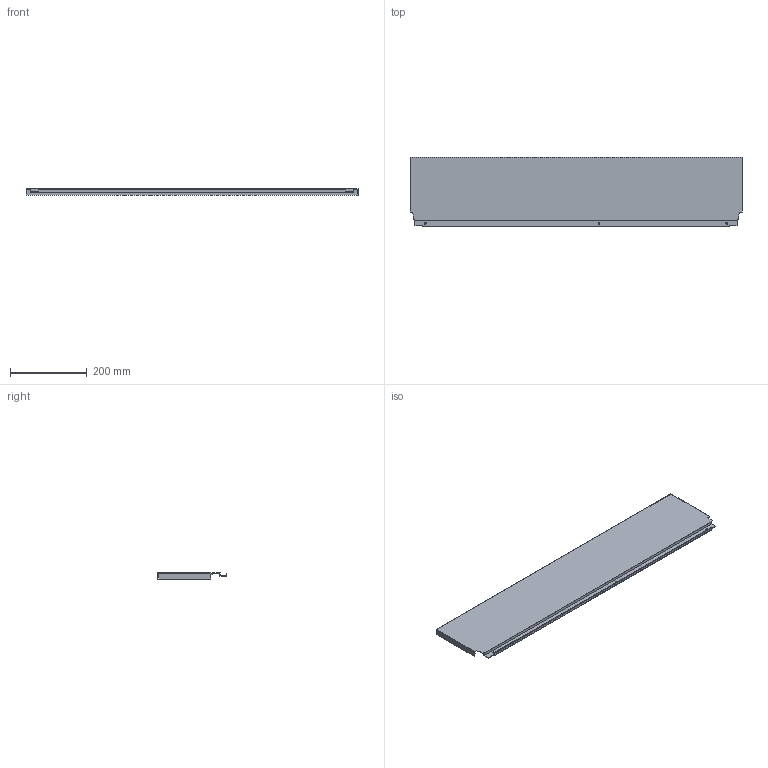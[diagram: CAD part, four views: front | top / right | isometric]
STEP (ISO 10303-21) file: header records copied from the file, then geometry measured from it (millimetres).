
FILE_DESCRIPTION (( 'STEP AP214' ), '1' );
FILE_NAME ('_DWD_XP Stahlrückwand_H182_KAB950_S16.step', '2010-07-08T12:57:38', ( 'grass' ), ( '' ), 'SwSTEP 2.0', 'SolidWorks 2010', '' );
FILE_SCHEMA (( 'AUTOMOTIVE_DESIGN' ));
Length unit declared in the file: millimetre
Products named in the file (1): _DWD_XP Stahlrückwand_H182_KAB950_S16
Bounding box: 867 x 182.49 x 16 mm (x, y, z)
Volume: 162564.9 mm3; surface area: 375797.4 mm2
Topology: 1 solids, 1 shells, 46 faces, 132 edges, 88 vertices
Faces by surface type: plane 40, cylinder 6
Entity records: 1534 total; most frequent: CARTESIAN_POINT 267, ORIENTED_EDGE 264, DIRECTION 238, EDGE_CURVE 132, VECTOR 120, LINE 120, VERTEX_POINT 88, AXIS2_PLACEMENT_3D 59
